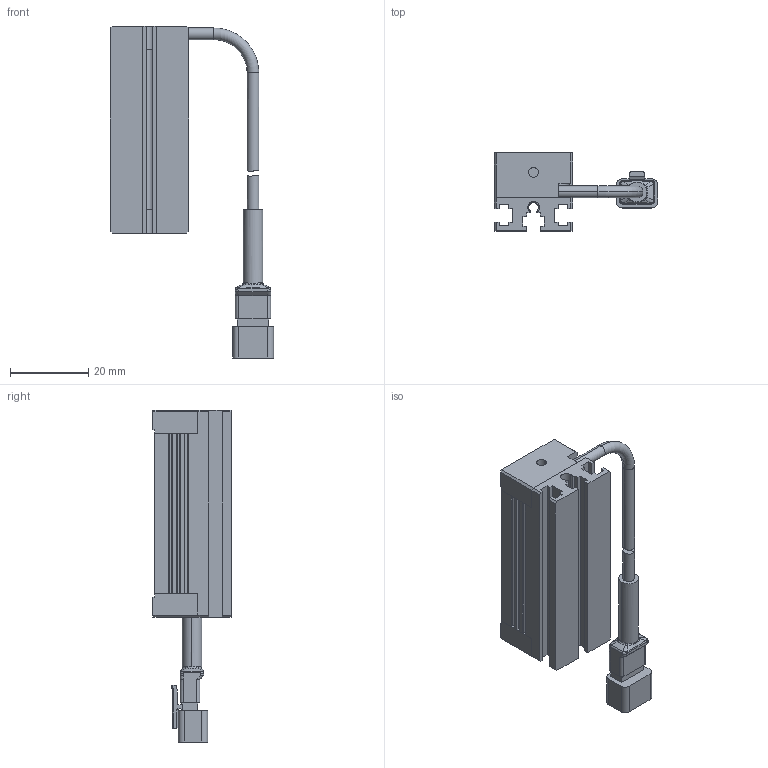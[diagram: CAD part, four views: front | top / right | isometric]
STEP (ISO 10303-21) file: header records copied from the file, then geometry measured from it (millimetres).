
FILE_DESCRIPTION (( 'STEP AP203' ), '1' );
FILE_NAME ('LDL2-41X16GR2.STEP', '2024-09-30T02:22:41', ( 'CCS' ), ( 'シーシーエス株式会社' ), 'SwSTEP 2.0', 'SolidWorks 2022', '' );
FILE_SCHEMA (( 'CONFIG_CONTROL_DESIGN' ));
Length unit declared in the file: millimetre
Products named in the file (7): LDL2-41X16GR2; ブロックB_LDL2-41X16GR2; ブロックA_LDL2-41X16GR2; フレーム_LDL2-41X16GR2; ねじ_LDL2-41X16GR2_M2x12_CAP(三価ｸﾛﾑ黒色); SMケーブル_LDL2-41X16GR2_パターン2; レンズ_LDL2-41X16GR2_11
Assembly tree (9 placements, depth 2):
  LDL2-41X16GR2
    フレーム_LDL2-41X16GR2
    レンズ_LDL2-41X16GR2_11
    ブロックA_LDL2-41X16GR2
    ブロックB_LDL2-41X16GR2
    ねじ_LDL2-41X16GR2_M2x12_CAP(三価ｸﾛﾑ黒色)  x4
    SMケーブル_LDL2-41X16GR2_パターン2
Bounding box: 41.75 x 20 x 85 mm (x, y, z)
Volume: 17938.5 mm3; surface area: 13867.3 mm2
Topology: 10 solids, 11 shells, 430 faces, 1083 edges, 685 vertices
Faces by surface type: plane 260, cylinder 92, bspline 44, torus 18, cone 16
Entity records: 13192 total; most frequent: CARTESIAN_POINT 3992, ORIENTED_EDGE 1814, DIRECTION 1619, EDGE_CURVE 907, VECTOR 639, LINE 639, VERTEX_POINT 586, AXIS2_PLACEMENT_3D 490
